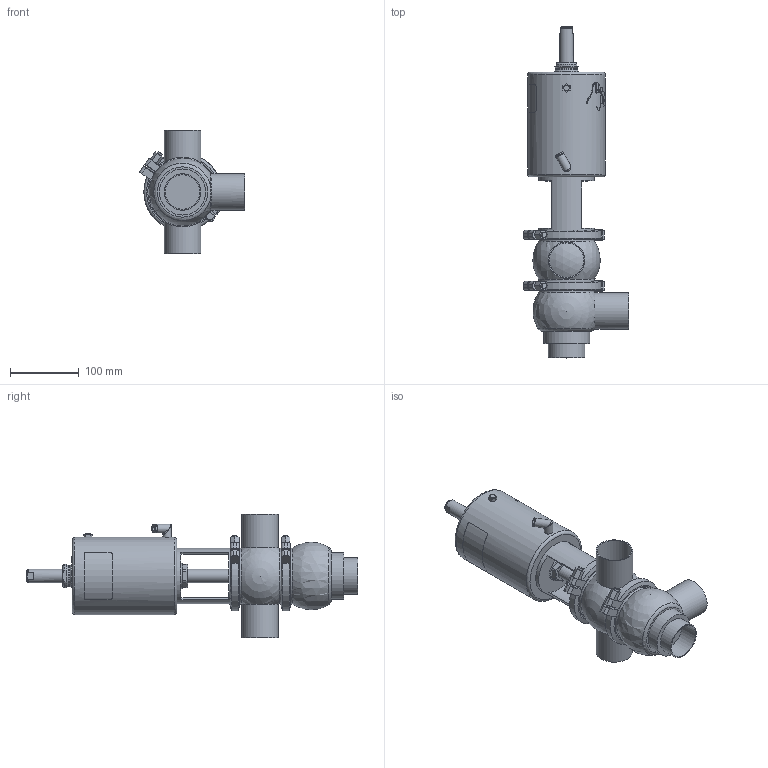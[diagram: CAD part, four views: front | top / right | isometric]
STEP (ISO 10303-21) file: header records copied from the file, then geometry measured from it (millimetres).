
FILE_DESCRIPTION (( 'STEP AP214' ), '1' );
FILE_NAME ('INNOVA K E W DIN 050 T2 AS NC_10.240.16.0022.STEP', '2024-08-06T10:51:40', ( '' ), ( '' ), 'SwSTEP 2.0', 'SolidWorks 2023', '' );
FILE_SCHEMA (( 'AUTOMOTIVE_DESIGN' ));
Length unit declared in the file: millimetre
Products named in the file (6): 10.240.15.0010_DN 050; 10.240.15.0001_DN 050; INNOVA K E W DIN 050 T2 AS NC_10.240.16.0022; 10.240.15.0007_DIN 050; 10.240.15.0014_T2 AS P0; 10.240.15.0002_DIN 050
Assembly tree (6 placements, depth 2):
  INNOVA K E W DIN 050 T2 AS NC_10.240.16.0022
    10.240.15.0007_DIN 050
    10.240.15.0002_DIN 050
    10.240.15.0010_DN 050
    10.240.15.0014_T2 AS P0
    10.240.15.0001_DN 050  x2
Bounding box: 152.59 x 482 x 180 mm (x, y, z)
Volume: 2732200.7 mm3; surface area: 286428.3 mm2
Topology: 6 solids, 6 shells, 401 faces, 1051 edges, 687 vertices
Faces by surface type: plane 194, cylinder 91, bspline 80, cone 26, sphere 5, torus 5
Full cylindrical faces by diameter (mm): 6.15 x1, 8 x5, 8.5 x1, 10.5 x1, 12.5 x3, 16 x1, 20 x2, 31 x1, 34.5 x2, 36.5 x1, 50 x4, 53 x4, 67 x1, 81 x4, 93 x4, 112.5 x1
Entity records: 20750 total; most frequent: CARTESIAN_POINT 11402, ORIENTED_EDGE 1626, DIRECTION 1261, EDGE_CURVE 813, VERTEX_POINT 563, AXIS2_PLACEMENT_3D 486, EDGE_LOOP 430, FACE_OUTER_BOUND 384
